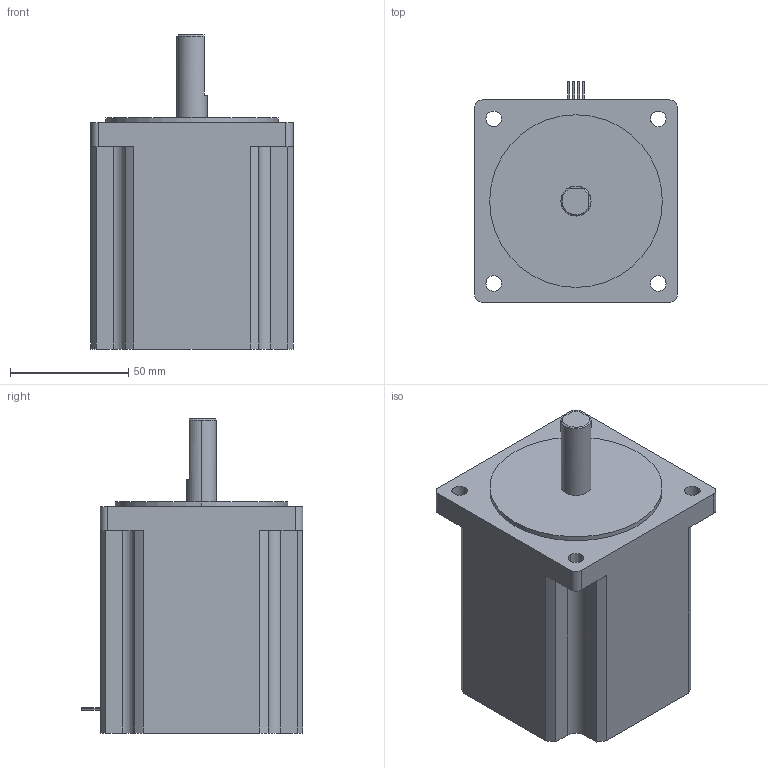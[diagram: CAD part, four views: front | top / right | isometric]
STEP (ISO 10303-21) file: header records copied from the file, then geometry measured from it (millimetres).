
FILE_DESCRIPTION((''),'2;1');
FILE_NAME('C:\Documents and Settings\rbadgerow\Desktop\webmodelmain\web step 3d\8718m\8718m s.stp','2005-05-24T07:34:15',('rbadgerow'),(''),'Autodesk Inventor 9','Autodesk Inventor 9','');
FILE_SCHEMA(('AUTOMOTIVE_DESIGN { 1 0 10303 214 1 1 1 1 }'));
Length unit declared in the file: inch
Products named in the file (1): 8718m s
Bounding box: 85.6 x 93.6 x 132.84 mm (x, y, z)
Volume: 639876.5 mm3; surface area: 48012.2 mm2
Topology: 1 solids, 1 shells, 70 faces, 184 edges, 123 vertices
Faces by surface type: cylinder 38, plane 29, cone 3
Entity records: 2238 total; most frequent: DIRECTION 407, CARTESIAN_POINT 386, ORIENTED_EDGE 368, EDGE_CURVE 184, AXIS2_PLACEMENT_3D 156, VERTEX_POINT 123, VECTOR 95, LINE 95
